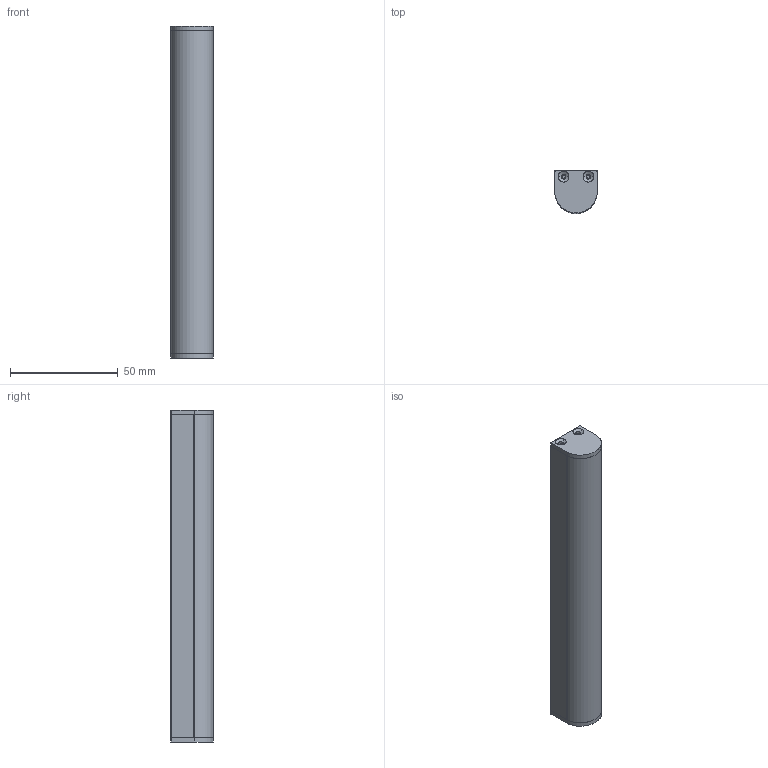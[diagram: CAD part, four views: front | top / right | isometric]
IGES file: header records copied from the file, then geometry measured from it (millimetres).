
Start section: SolidWorks IGES file using analytic representation for surfaces
Global section: file name: C:\Users\Mattybullough\Desktop\IGS\NS1911C.IGS; native system: SolidWorks 2015; preprocessor: SolidWorks 2015; author: MattyBullough; date: 160524.133920; units: millimetre
Bounding box: 19.5 x 19.8 x 154 mm (x, y, z)
Surface area: 30956.8 mm2 (no closed solid volume)
Topology: 0 solids, 0 shells, 242 faces, 2364 edges, 2364 vertices
Faces by surface type: revolution 124, bspline 118
